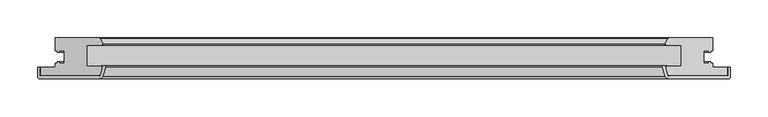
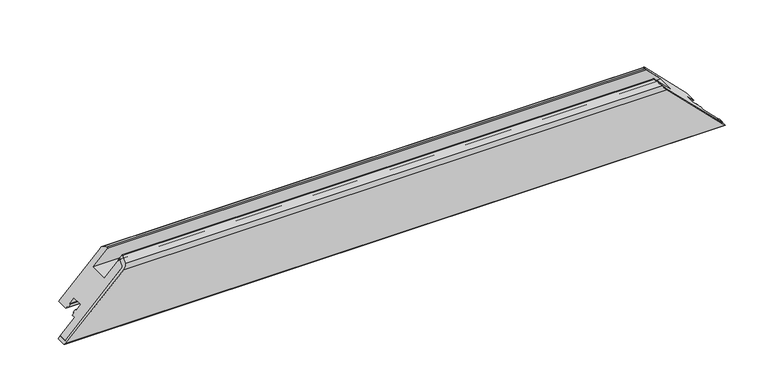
"""IFC4 building model written with IfcOpenShell, lengths in millimetres: proxy geometry, Weiku - Montante - Folha 02.2.01.018 : Weiku - Montante - Folha 02.2.01.018."""

from ifc_helpers import new_model, si_unit, frame, origin, place, context, project, spatial, polyline, ellipse_curve, source, transform, mapped, element, save
from ifc_brep_helpers import plane_surface, cylinder_surface, revolved_surface, advanced_brep


def generic_models_c1c0212a(model_context):
    return source(origin(), model_context, "Body", "AdvancedBrep", [
        advanced_brep(
        [(453.0, -50.0, 0.0), (-453.0, -50.0, 0.0), (-375.9997332, -50.0, 77.0002668), (375.9997332, -50.0, 77.0002668), (-373.1019557, -47.7764571, 79.8980443), (373.1019557, -47.7764571, 79.8980443), (-370.5170371, -38.1294095, 82.4829629), (370.5170371, -38.1294095, 82.4829629), (-371.0, -37.5, 82.0), (371.0, -37.5, 82.0), (-371.8560102, -37.5, 81.1439898), (371.8560102, -37.5, 81.1439898), (-371.8560102, -36.5, 81.1439898), (371.8560102, -36.5, 81.1439898), (-367.2425588, -36.5, 85.7574412), (367.2425588, -36.5, 85.7574412), (-366.2766329, -37.758819, 86.7233671), (366.2766329, -37.758819, 86.7233671), (-369.6354501, -50.2940952, 83.3645499), (369.6354501, -50.2940952, 83.3645499), (-374.4650792, -54.0, 78.5349208), (374.4650792, -54.0, 78.5349208), (-454.0, -54.0, -1.0), (454.0, -54.0, -1.0), (-456.0, -52.0, -3.0), (456.0, -52.0, -3.0), (-456.0, -38.5, -3.0), (456.0, -38.5, -3.0), (-453.0, -38.5, 0.0), (453.0, -38.5, 0.0)],
        [
            (0, 1),
            (1, 2),
            (2, 3),
            (3, 0),
            (2, 4, ellipse_curve(frame((-375.9997332, -47.0, 77.0002668), z_axis=(-0.7071067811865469, 0.0, 0.7071067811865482), x_axis=(0.707106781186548, 0.0, 0.7071067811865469)), 4.2426407, 3.0)),
            (4, 5),
            (5, 3, ellipse_curve(frame((375.9997332, -47.0, 77.0002668), z_axis=(0.7071067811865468, 0.0, 0.7071067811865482), x_axis=(0.7071067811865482, 0.0, -0.7071067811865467)), 4.2426407, 3.0)),
            (4, 6),
            (6, 7),
            (7, 5),
            (6, 8, ellipse_curve(frame((-371.0, -38.0, 82.0), z_axis=(-0.7071067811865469, 0.0, 0.7071067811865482), x_axis=(0.707106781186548, 0.0, 0.7071067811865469)), 0.7071068, 0.5)),
            (8, 9),
            (9, 7, ellipse_curve(frame((371.0, -38.0, 82.0), z_axis=(0.7071067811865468, 0.0, 0.7071067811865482), x_axis=(0.7071067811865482, 0.0, -0.7071067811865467)), 0.7071068, 0.5)),
            (8, 10),
            (10, 11),
            (11, 9),
            (10, 12, ellipse_curve(frame((-371.8560102, -37.0, 81.1439898), z_axis=(0.7071067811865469, 0.0, -0.7071067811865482), x_axis=(-0.707106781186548, 0.0, -0.7071067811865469)), 0.7071068, 0.5)),
            (12, 13),
            (13, 11, ellipse_curve(frame((371.8560102, -37.0, 81.1439898), z_axis=(-0.7071067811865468, 0.0, -0.7071067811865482), x_axis=(-0.7071067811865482, 0.0, 0.7071067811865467)), 0.7071068, 0.5)),
            (12, 14),
            (14, 15),
            (15, 13),
            (14, 16, ellipse_curve(frame((-367.2425588, -37.5, 85.7574412), z_axis=(0.7071067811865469, 0.0, -0.7071067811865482), x_axis=(-0.707106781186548, 0.0, -0.7071067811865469)), 1.4142136, 1.0)),
            (16, 17),
            (17, 15, ellipse_curve(frame((367.2425588, -37.5, 85.7574412), z_axis=(-0.7071067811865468, 0.0, -0.7071067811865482), x_axis=(-0.7071067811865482, 0.0, 0.7071067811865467)), 1.4142136, 1.0)),
            (16, 18),
            (18, 19),
            (19, 17),
            (18, 20, ellipse_curve(frame((-374.4650792, -49.0, 78.5349208), z_axis=(0.7071067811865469, 0.0, -0.7071067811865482), x_axis=(-0.707106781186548, 0.0, -0.7071067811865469)), 7.0710678, 5.0)),
            (20, 21),
            (21, 19, ellipse_curve(frame((374.4650792, -49.0, 78.5349208), z_axis=(-0.7071067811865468, 0.0, -0.7071067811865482), x_axis=(-0.7071067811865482, 0.0, 0.7071067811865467)), 7.0710678, 5.0)),
            (20, 22),
            (22, 23),
            (23, 21),
            (22, 24, ellipse_curve(frame((-454.0, -52.0, -1.0), z_axis=(0.7071067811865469, 0.0, -0.7071067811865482), x_axis=(-0.707106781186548, 0.0, -0.7071067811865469)), 2.8284271, 2.0)),
            (24, 25),
            (25, 23, ellipse_curve(frame((454.0, -52.0, -1.0), z_axis=(-0.7071067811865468, 0.0, -0.7071067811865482), x_axis=(-0.7071067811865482, 0.0, 0.7071067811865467)), 2.8284271, 2.0)),
            (24, 26),
            (26, 27),
            (27, 25),
            (26, 28),
            (28, 29),
            (29, 27),
            (28, 1),
            (0, 29),
        ],
        [
            plane_surface(frame((-473.0, -50.0, 0.0), z_axis=(0.0, 1.0, 0.0), x_axis=(1.0, 0.0, 0.0))),
            revolved_surface(polyline([(378.99973320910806, -50.0, 77.0002668), (-378.99973320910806, -50.0, 77.0002668)]), (-473.0, -47.0, 77.0002668), (1.0, 0.0, 0.0)),
            plane_surface(frame((-473.0, -47.7764571, 79.8980443), z_axis=(0.0, 0.2588190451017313, -0.9659258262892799), x_axis=(1.0, 0.0, 0.0))),
            revolved_surface(polyline([(371.50000001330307, -38.5, 82.0), (-371.5000000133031, -38.5, 82.0)]), (-473.0, -38.0, 82.0), (1.0, 0.0, 0.0)),
            plane_surface(frame((-473.0, -37.5, 82.0), z_axis=(0.0, -1.0, 0.0), x_axis=(1.0, 0.0, 0.0))),
            cylinder_surface(frame((-473.0, -37.0, 81.1439898), z_axis=(-1.0, 0.0, 0.0), x_axis=(0.0, -1.0, 0.0)), 0.5),
            plane_surface(frame((-473.0, -36.5, 81.1439898), z_axis=(0.0, 1.0, 0.0), x_axis=(1.0, 0.0, 0.0))),
            cylinder_surface(frame((-473.0, -37.5, 85.7574412), z_axis=(-1.0, 0.0, 0.0), x_axis=(0.0, -1.0, 0.0)), 1.0),
            plane_surface(frame((-473.0, -37.758819, 86.7233671), z_axis=(0.0, -0.25881904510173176, 0.9659258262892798), x_axis=(1.0, 0.0, 0.0))),
            cylinder_surface(frame((-473.0, -49.0, 78.5349208), z_axis=(-1.0, 0.0, 0.0), x_axis=(0.0, -1.0, 0.0)), 5.0),
            plane_surface(frame((-473.0, -54.0, 78.5349208), z_axis=(0.0, -1.0, 0.0), x_axis=(1.0, 0.0, 0.0))),
            cylinder_surface(frame((-473.0, -52.0, -1.0), z_axis=(-1.0, 0.0, 0.0), x_axis=(0.0, -1.0, 0.0)), 2.0),
            plane_surface(frame((-473.0, -52.0, -3.0), z_axis=(0.0, 0.0, -1.0), x_axis=(1.0, 0.0, 0.0))),
            plane_surface(frame((-473.0, -38.5, -3.0), z_axis=(0.0, 1.0, 0.0), x_axis=(1.0, 0.0, 0.0))),
            plane_surface(frame((-473.0, -38.5, 0.0), z_axis=(0.0, 0.0, 1.0), x_axis=(1.0, 0.0, 0.0))),
            plane_surface(frame((363.0, 0.0, 90.0), z_axis=(0.7071067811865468, 0.0, 0.7071067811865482), x_axis=(0.0, -1.0, 0.0))),
            plane_surface(frame((-481.2842712, 0.0, -28.2842712), z_axis=(-0.7071067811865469, 0.0, 0.7071067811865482), x_axis=(0.0, -1.0, 0.0))),
        ],
        [
            (0, [[1, 2, 3, 4]]),
            (1, [[-3, 5, 6, 7]]),
            (2, [[-6, 8, 9, 10]]),
            (3, [[-9, 11, 12, 13]]),
            (4, [[-12, 14, 15, 16]]),
            (5, [[-15, 17, 18, 19]]),
            (6, [[-18, 20, 21, 22]]),
            (7, [[-21, 23, 24, 25]]),
            (8, [[-24, 26, 27, 28]]),
            (9, [[-27, 29, 30, 31]]),
            (10, [[-30, 32, 33, 34]]),
            (11, [[-33, 35, 36, 37]]),
            (12, [[-36, 38, 39, 40]]),
            (13, [[-39, 41, 42, 43]]),
            (14, [[-42, 44, -1, 45]]),
            (15, [[-7, -10, -13, -16, -19, -22, -25, -28, -31, -34, -37, -40, -43, -45, -4]]),
            (16, [[-44, -41, -38, -35, -32, -29, -26, -23, -20, -17, -14, -11, -8, -5, -2]]),
        ],
    ),
        advanced_brep(
        [(453.0, -50.0, 0.0), (375.9997332, -50.0, 77.0002668), (-375.9997332, -50.0, 77.0002668), (-453.0, -50.0, 0.0), (-453.0, -38.5, 0.0), (453.0, -38.5, 0.0), (-374.9872264, 0.0, 78.0127736), (374.9872264, 0.0, 78.0127736), (433.0, 0.0, 20.0), (-433.0, 0.0, 20.0), (-373.1019557, -47.7764571, 79.8980443), (-370.5170371, -38.1294095, 82.4829629), (-371.0, -37.5, 82.0), (-391.5, -37.5, 61.5), (-391.5, -9.5, 61.5), (-371.7134285, -9.5, 81.2865715), (-370.5512796, -7.617411, 82.4487204), (-374.0932657, -0.5518546, 78.9067343), (-433.0, -16.9, 20.0), (-430.8, -16.9, 22.2), (-430.8, -18.9, 22.2), (-428.0, -18.9, 25.0), (-428.0, -16.9, 25.0), (-421.5, -16.9, 31.5), (-421.5, -33.1, 31.5), (-428.0, -33.1, 25.0), (-428.0, -31.1, 25.0), (-430.8, -31.1, 22.2), (-430.8, -33.1, 22.2), (-433.0, -33.1, 20.0), (-433.0, -38.5, 20.0), (433.0, -38.5, 20.0), (433.0, -33.1, 20.0), (430.8, -33.1, 22.2), (430.8, -31.1, 22.2), (428.0, -31.1, 25.0), (428.0, -33.1, 25.0), (421.5, -33.1, 31.5), (421.5, -16.9, 31.5), (428.0, -16.9, 25.0), (428.0, -18.9, 25.0), (430.8, -18.9, 22.2), (430.8, -16.9, 22.2), (433.0, -16.9, 20.0), (374.0932657, -0.5518546, 78.9067343), (370.5512796, -7.617411, 82.4487204), (371.7134285, -9.5, 81.2865715), (391.5, -9.5, 61.5), (391.5, -37.5, 61.5), (371.0, -37.5, 82.0), (370.5170371, -38.1294095, 82.4829629), (373.1019557, -47.7764571, 79.8980443)],
        [
            (0, 1),
            (1, 2),
            (2, 3),
            (3, 0),
            (3, 4),
            (4, 5),
            (5, 0),
            (6, 7),
            (7, 8),
            (8, 9),
            (9, 6),
            (2, 10, ellipse_curve(frame((-375.9997332, -47.0, 77.0002668), z_axis=(-0.7071067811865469, 0.0, 0.7071067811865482), x_axis=(-0.707106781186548, 0.0, -0.7071067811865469)), 4.2426407, 3.0)),
            (10, 11),
            (11, 12, ellipse_curve(frame((-371.0, -38.0, 82.0), z_axis=(-0.7071067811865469, 0.0, 0.7071067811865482), x_axis=(-0.707106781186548, 0.0, -0.7071067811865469)), 0.7071068, 0.5)),
            (12, 13),
            (13, 14),
            (14, 15),
            (15, 16, ellipse_curve(frame((-371.7134285, -8.2, 81.2865715), z_axis=(-0.7071067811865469, 0.0, 0.7071067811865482), x_axis=(-0.707106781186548, 0.0, -0.7071067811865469)), 1.8384776, 1.3)),
            (16, 17),
            (17, 6, ellipse_curve(frame((-374.9872264, -1.0, 78.0127736), z_axis=(-0.7071067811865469, 0.0, 0.7071067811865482), x_axis=(-0.707106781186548, 0.0, -0.7071067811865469)), 1.4142136, 1.0)),
            (9, 18),
            (18, 19),
            (19, 20),
            (20, 21),
            (21, 22),
            (22, 23),
            (23, 24),
            (24, 25),
            (25, 26),
            (26, 27),
            (27, 28),
            (28, 29),
            (29, 30),
            (30, 4),
            (5, 31),
            (31, 32),
            (32, 33),
            (33, 34),
            (34, 35),
            (35, 36),
            (36, 37),
            (37, 38),
            (38, 39),
            (39, 40),
            (40, 41),
            (41, 42),
            (42, 43),
            (43, 8),
            (7, 44, ellipse_curve(frame((374.9872264, -1.0, 78.0127736), z_axis=(0.7071067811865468, 0.0, 0.7071067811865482), x_axis=(-0.7071067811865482, 0.0, 0.7071067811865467)), 1.4142136, 1.0)),
            (44, 45),
            (45, 46, ellipse_curve(frame((371.7134285, -8.2, 81.2865715), z_axis=(0.7071067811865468, 0.0, 0.7071067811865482), x_axis=(-0.7071067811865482, 0.0, 0.7071067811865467)), 1.8384776, 1.3)),
            (46, 47),
            (47, 48),
            (48, 49),
            (49, 50, ellipse_curve(frame((371.0, -38.0, 82.0), z_axis=(0.7071067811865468, 0.0, 0.7071067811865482), x_axis=(-0.7071067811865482, 0.0, 0.7071067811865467)), 0.7071068, 0.5)),
            (50, 51),
            (51, 1, ellipse_curve(frame((375.9997332, -47.0, 77.0002668), z_axis=(0.7071067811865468, 0.0, 0.7071067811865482), x_axis=(-0.7071067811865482, 0.0, 0.7071067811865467)), 4.2426407, 3.0)),
            (17, 44),
            (16, 45),
            (15, 46),
            (14, 47),
            (13, 48),
            (12, 49),
            (11, 50),
            (10, 51),
            (30, 31),
            (29, 32),
            (28, 33),
            (27, 34),
            (26, 35),
            (25, 36),
            (24, 37),
            (23, 38),
            (22, 39),
            (21, 40),
            (20, 41),
            (19, 42),
            (18, 43),
        ],
        [
            plane_surface(frame((-453.0, -50.0, 77.0002668), z_axis=(0.0, -1.0, 0.0), x_axis=(1.0, 0.0, 0.0))),
            plane_surface(frame((-453.0, -50.0, 0.0), z_axis=(0.0, 0.0, -1.0), x_axis=(1.0, 0.0, 0.0))),
            plane_surface(frame((-453.0, 0.0, 20.0), z_axis=(0.0, 1.0, 0.0), x_axis=(1.0, 0.0, 0.0))),
            plane_surface(frame((-481.2842712, 0.0, -28.2842712), z_axis=(-0.7071067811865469, 0.0, 0.7071067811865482), x_axis=(0.0, -1.0, 0.0))),
            plane_surface(frame((363.0, 0.0, 90.0), z_axis=(0.7071067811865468, 0.0, 0.7071067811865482), x_axis=(0.0, -1.0, 0.0))),
            cylinder_surface(frame((-453.0, -1.0, 78.0127736), z_axis=(-1.0, 0.0, 0.0), x_axis=(0.0, -1.0, 0.0)), 1.0),
            plane_surface(frame((-453.0, -0.5518546, 78.9067343), z_axis=(0.0, 0.4481453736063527, 0.8939606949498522), x_axis=(1.0, 0.0, 0.0))),
            cylinder_surface(frame((-453.0, -8.2, 81.2865715), z_axis=(-1.0, 0.0, 0.0), x_axis=(0.0, -1.0, 0.0)), 1.3),
            plane_surface(frame((-453.0, -9.5, 81.2865715), z_axis=(0.0, -1.0, 0.0), x_axis=(1.0, 0.0, 0.0))),
            plane_surface(frame((-453.0, -9.5, 61.5), z_axis=(0.0, 0.0, 1.0), x_axis=(1.0, 0.0, 0.0))),
            plane_surface(frame((-453.0, -37.5, 61.5), z_axis=(0.0, 1.0, 0.0), x_axis=(1.0, 0.0, 0.0))),
            cylinder_surface(frame((-453.0, -38.0, 82.0), z_axis=(-1.0, 0.0, 0.0), x_axis=(0.0, -1.0, 0.0)), 0.5),
            plane_surface(frame((-453.0, -38.1294095, 82.4829629), z_axis=(0.0, -0.2588190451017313, 0.9659258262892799), x_axis=(1.0, 0.0, 0.0))),
            cylinder_surface(frame((-453.0, -47.0, 77.0002668), z_axis=(-1.0, 0.0, 0.0), x_axis=(0.0, -1.0, 0.0)), 3.0),
            plane_surface(frame((-453.0, -38.5, 0.0), z_axis=(0.0, 1.0, 0.0), x_axis=(1.0, 0.0, 0.0))),
            plane_surface(frame((-453.0, -38.5, 20.0), z_axis=(0.0, 0.0, -1.0), x_axis=(1.0, 0.0, 0.0))),
            plane_surface(frame((-453.0, -33.1, 20.0), z_axis=(0.0, 1.0, 0.0), x_axis=(1.0, 0.0, 0.0))),
            plane_surface(frame((-453.0, -33.1, 22.2), z_axis=(0.0, 0.0, -1.0), x_axis=(1.0, 0.0, 0.0))),
            plane_surface(frame((-453.0, -31.1, 22.2), z_axis=(0.0, 1.0, 0.0), x_axis=(1.0, 0.0, 0.0))),
            plane_surface(frame((-453.0, -31.1, 25.0), z_axis=(0.0, 0.0, 1.0), x_axis=(1.0, 0.0, 0.0))),
            plane_surface(frame((-453.0, -33.1, 25.0), z_axis=(0.0, 1.0, 0.0), x_axis=(1.0, 0.0, 0.0))),
            plane_surface(frame((-453.0, -33.1, 31.5), z_axis=(0.0, 0.0, -1.0), x_axis=(1.0, 0.0, 0.0))),
            plane_surface(frame((-453.0, -16.9, 31.5), z_axis=(0.0, -1.0, 0.0), x_axis=(1.0, 0.0, 0.0))),
            plane_surface(frame((-453.0, -16.9, 25.0), z_axis=(0.0, 0.0, 1.0), x_axis=(1.0, 0.0, 0.0))),
            plane_surface(frame((-453.0, -18.9, 25.0), z_axis=(0.0, -1.0, 0.0), x_axis=(1.0, 0.0, 0.0))),
            plane_surface(frame((-453.0, -18.9, 22.2), z_axis=(0.0, 0.0, -1.0), x_axis=(1.0, 0.0, 0.0))),
            plane_surface(frame((-453.0, -16.9, 22.2), z_axis=(0.0, -1.0, 0.0), x_axis=(1.0, 0.0, 0.0))),
            plane_surface(frame((-453.0, -16.9, 20.0), z_axis=(0.0, 0.0, -1.0), x_axis=(1.0, 0.0, 0.0))),
        ],
        [
            (0, [[1, 2, 3, 4]]),
            (1, [[5, 6, 7, -4]]),
            (2, [[8, 9, 10, 11]]),
            (3, [[12, 13, 14, 15, 16, 17, 18, 19, 20, -11, 21, 22, 23, 24, 25, 26, 27, 28, 29, 30, 31, 32, 33, 34, -5, -3]]),
            (4, [[-7, 35, 36, 37, 38, 39, 40, 41, 42, 43, 44, 45, 46, 47, 48, -9, 49, 50, 51, 52, 53, 54, 55, 56, 57, -1]]),
            (5, [[58, -49, -8, -20]]),
            (6, [[59, -50, -58, -19]]),
            (7, [[60, -51, -59, -18]]),
            (8, [[61, -52, -60, -17]]),
            (9, [[62, -53, -61, -16]]),
            (10, [[63, -54, -62, -15]]),
            (11, [[64, -55, -63, -14]]),
            (12, [[65, -56, -64, -13]]),
            (13, [[-2, -57, -65, -12]]),
            (14, [[-34, 66, -35, -6]]),
            (15, [[67, -36, -66, -33]]),
            (16, [[68, -37, -67, -32]]),
            (17, [[69, -38, -68, -31]]),
            (18, [[70, -39, -69, -30]]),
            (19, [[71, -40, -70, -29]]),
            (20, [[72, -41, -71, -28]]),
            (21, [[73, -42, -72, -27]]),
            (22, [[74, -43, -73, -26]]),
            (23, [[75, -44, -74, -25]]),
            (24, [[76, -45, -75, -24]]),
            (25, [[77, -46, -76, -23]]),
            (26, [[78, -47, -77, -22]]),
            (27, [[-10, -48, -78, -21]]),
        ],
    ),
    ])


if __name__ == "__main__":
    model = new_model("IFC4")
    model_context = context("Model", 3, world=origin())
    ifc_project = project(units=[si_unit("LENGTHUNIT", "METRE", prefix="MILLI")], contexts=[model_context])
    site = spatial("IfcSite", under=ifc_project)
    building = spatial("IfcBuilding", under=site)
    placement = place(None, origin())
    generic_models_shape = generic_models_c1c0212a(model_context)
    element("IfcBuildingElementProxy", 1, Name="Weiku - Montante - Folha 02.2.01.018 : Weiku - Montante - Folha 02.2.01.018", ObjectType="Weiku - Montante - Folha 02.2.01.018 : Weiku - Montante - Folha 02.2.01.018", at=placement, inside=building, context=model_context, shape_type="MappedRepresentation", body=[
        mapped(generic_models_shape, transform((0.0, 0.0, 0.0), x_axis=(1.0, 0.0, 0.0), y_axis=(0.0, 1.0, 0.0), z_axis=(0.0, 0.0, 1.0))),
    ])
    save(model, "model.ifc")
